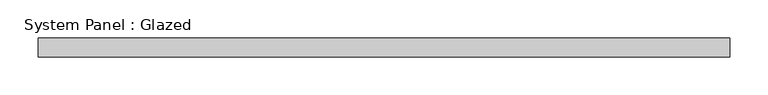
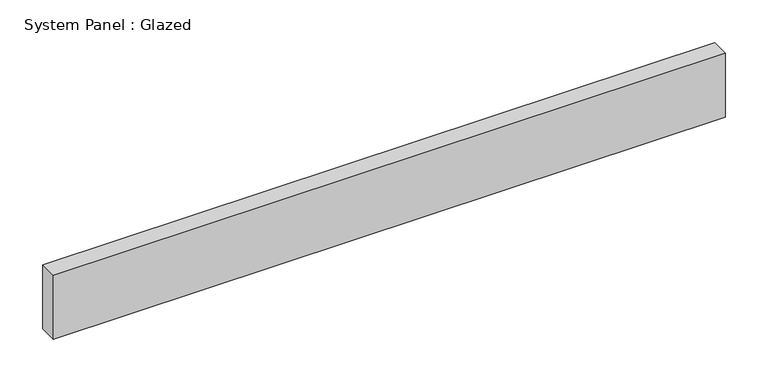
"""IFC4 building model written with IfcOpenShell, lengths in millimetres: plate geometry, System Panel : Glazed."""

from ifc_helpers import new_model, si_unit, origin, origin_with_axes, place, context, project, spatial, polyline, outline, extrude, source, transform, mapped, element, save


def system_panel_glazed_0088ee4b(model_context):
    return source(origin(), model_context, "Body", "SweptSolid", [
        extrude(outline(polyline([(454.4003341, 24.5), (-454.4003341, 24.5), (-454.4003341, 49.5), (454.4003341, 49.5), (454.4003341, 24.5)])), origin_with_axes(), (0.0, 0.0, 1.0), 91.2241464),
    ])


if __name__ == "__main__":
    model = new_model("IFC4")
    model_context = context("Model", 3, world=origin())
    ifc_project = project(units=[si_unit("LENGTHUNIT", "METRE", prefix="MILLI")], contexts=[model_context])
    site = spatial("IfcSite", under=ifc_project)
    building = spatial("IfcBuilding", under=site)
    placement = place(None, origin())
    system_panel_glazed_shape = system_panel_glazed_0088ee4b(model_context)
    element("IfcPlate", 1, ObjectType="System Panel : Glazed", at=placement, inside=building, context=model_context, shape_type="MappedRepresentation", body=[
        mapped(system_panel_glazed_shape, transform((0.0, 0.0, 0.0), x_axis=(1.0, 0.0, 0.0), y_axis=(0.0, 1.0, 0.0), z_axis=(0.0, 0.0, 1.0))),
    ])
    save(model, "model.ifc")
